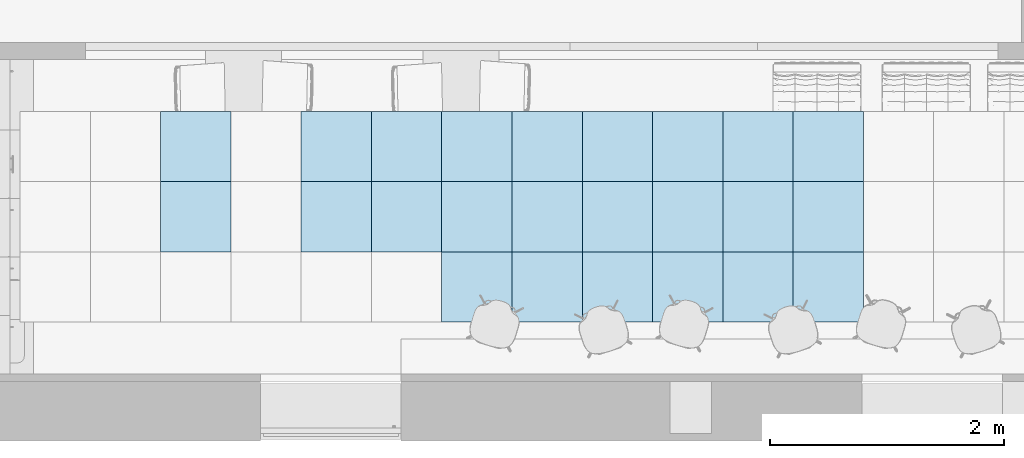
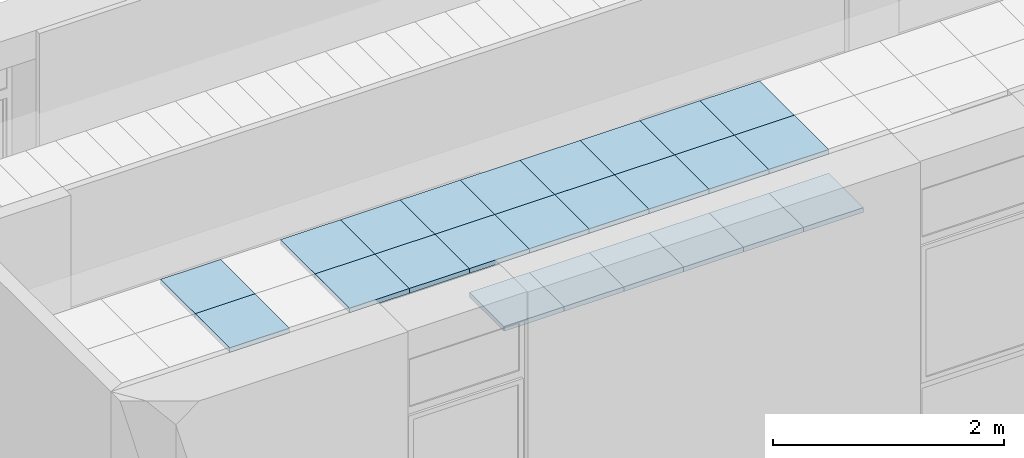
# One storey, part 18 of 68: 24 slabs.
"""IFC2X3 building model written with IfcOpenShell, lengths in millimetres."""

from ifc_helpers import new_model, entity, si_unit, converted_unit, derived_unit, money_unit, direction, frame, origin_with_axes, place, context, subcontext, project, spatial, polyline, outline, extrude, material, layer, layer_set, layer_usage, type_object, element, save


model = new_model("IFC2X3")

# Units and contexts
model_context = context("Model", 3, precision=0.01, world=origin_with_axes(), true_north=direction((0.0, 1.0)))
body_context = subcontext(model_context, "Body", "Model", "MODEL_VIEW")
ifc_project = project(units=[si_unit("LENGTHUNIT", "METRE", prefix="MILLI"), si_unit("AREAUNIT", "SQUARE_METRE"), si_unit("VOLUMEUNIT", "CUBIC_METRE"), converted_unit("PLANEANGLEUNIT", "DEGREE", entity("IfcPlaneAngleMeasure", 0.0174532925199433), si_unit("PLANEANGLEUNIT", "RADIAN"), dimensions=[0, 0, 0, 0, 0, 0, 0]), money_unit("USD"), converted_unit("TIMEUNIT", "Year", entity("IfcTimeMeasure", 31557600.0), si_unit("TIMEUNIT", "SECOND"), dimensions=[0, 0, 1, 0, 0, 0, 0]), si_unit("MASSUNIT", "GRAM", prefix="KILO"), si_unit("THERMODYNAMICTEMPERATUREUNIT", "DEGREE_CELSIUS"), si_unit("LUMINOUSINTENSITYUNIT", "LUMEN"), si_unit("ENERGYUNIT", "JOULE", prefix="MEGA"), derived_unit("THERMALCONDUCTANCEUNIT", [(si_unit("POWERUNIT", "WATT"), 1), (si_unit("LENGTHUNIT", "METRE"), -1), (si_unit("THERMODYNAMICTEMPERATUREUNIT", "KELVIN"), -1)]), derived_unit("SPECIFICHEATCAPACITYUNIT", [(si_unit("ENERGYUNIT", "JOULE"), 1), (si_unit("MASSUNIT", "GRAM", prefix="KILO"), -1), (si_unit("THERMODYNAMICTEMPERATUREUNIT", "KELVIN"), -1)]), derived_unit("MASSDENSITYUNIT", [(si_unit("MASSUNIT", "GRAM", prefix="KILO"), 1), (si_unit("VOLUMEUNIT", "CUBIC_METRE"), -1)])], contexts=[model_context])

# Site, building, storey
site_placement = place(None, origin_with_axes())
site = spatial("IfcSite", under=ifc_project, at=site_placement, Name="Sitio", CompositionType="ELEMENT")
building_placement = place(site_placement, origin_with_axes())
building = spatial("IfcBuilding", under=site, at=building_placement, Name="Construcción", CompositionType="ELEMENT")
storey_placement = place(building_placement, origin_with_axes())
storey = spatial("IfcBuildingStorey", under=building, at=storey_placement, Name="PLANTA 1ª", CompositionType="ELEMENT", Elevation=0.0)

# Slabs
ifc_material = material(Name="ARQ_CE217_Armstrong 60x60")
ifc_layer = layer(ifc_material, 50.0, ventilated="UNKNOWN")
ifc_layer_set = layer_set([ifc_layer], Name="ARQ_CE217_Armstrong 60x60 50")
ifc_layer_usage_1 = layer_usage(ifc_layer_set, "AXIS3", "NEGATIVE", 50.0)
slab_type = type_object("IfcSlabType", Name="ARQ_CE217_Armstrong 60x60 50", PredefinedType="NOTDEFINED")
slab_1_placement = place(storey_placement, frame((-21420.63976804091, -87.06138389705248, 2500.0), z_axis=(0.0, 0.0, 1.0), x_axis=(1.0, 0.0, 0.0)))
element("IfcSlab", 1, at=slab_1_placement, inside=storey, type_object=slab_type, material=ifc_layer_usage_1, Name="SLA - 026", PredefinedType="NOTDEFINED", context=body_context, shape_type="SweptSolid", body=[
    extrude(outline(polyline([(0.0, 0.0), (600.0000000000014, 0.0), (600.0000000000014, 600.0000000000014), (0.0, 600.0000000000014), (0.0, 0.0)])), frame((0.0, 0.0, -50.0), z_axis=(0.0, 0.0, 1.0), x_axis=(1.0, 0.0, 0.0)), (0.0, 0.0, 1.0), 50.0),
])
ifc_layer_usage_2 = layer_usage(ifc_layer_set, "AXIS3", "NEGATIVE", 50.0)
slab_2_placement = place(storey_placement, frame((-22620.6397680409, -687.0613838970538, 2250.0), z_axis=(0.0, 0.0, 1.0), x_axis=(1.0, 0.0, 0.0)))
element("IfcSlab", 2, at=slab_2_placement, inside=storey, type_object=slab_type, material=ifc_layer_usage_2, Name="SLA - 026", PredefinedType="NOTDEFINED", context=body_context, shape_type="SweptSolid", body=[
    extrude(outline(polyline([(0.0, 0.0), (599.9999999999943, 0.0), (599.9999999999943, 600.0000000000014), (0.0, 600.0000000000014), (0.0, 0.0)])), frame((0.0, 0.0, -50.0), z_axis=(0.0, 0.0, 1.0), x_axis=(1.0, 0.0, 0.0)), (0.0, 0.0, 1.0), 50.0),
])
ifc_layer_usage_3 = layer_usage(ifc_layer_set, "AXIS3", "NEGATIVE", 50.0)
slab_3_placement = place(storey_placement, frame((-23820.63976804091, -687.0613838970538, 2250.0), z_axis=(0.0, 0.0, 1.0), x_axis=(1.0, 0.0, 0.0)))
element("IfcSlab", 3, at=slab_3_placement, inside=storey, type_object=slab_type, material=ifc_layer_usage_3, Name="SLA - 026", PredefinedType="NOTDEFINED", context=body_context, shape_type="SweptSolid", body=[
    extrude(outline(polyline([(0.0, 0.0), (600.0000000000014, 0.0), (600.0000000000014, 600.0000000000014), (0.0, 600.0000000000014), (0.0, 0.0)])), frame((0.0, 0.0, -50.0), z_axis=(0.0, 0.0, 1.0), x_axis=(1.0, 0.0, 0.0)), (0.0, 0.0, 1.0), 50.0),
])
ifc_layer_usage_4 = layer_usage(ifc_layer_set, "AXIS3", "NEGATIVE", 50.0)
slab_4_placement = place(storey_placement, frame((-23220.6397680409, -687.0613838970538, 2250.0), z_axis=(0.0, 0.0, 1.0), x_axis=(1.0, 0.0, 0.0)))
element("IfcSlab", 4, at=slab_4_placement, inside=storey, type_object=slab_type, material=ifc_layer_usage_4, Name="SLA - 026", PredefinedType="NOTDEFINED", context=body_context, shape_type="SweptSolid", body=[
    extrude(outline(polyline([(0.0, 0.0), (600.0000000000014, 0.0), (600.0000000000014, 600.0000000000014), (0.0, 600.0000000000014), (0.0, 0.0)])), frame((0.0, 0.0, -50.0), z_axis=(0.0, 0.0, 1.0), x_axis=(1.0, 0.0, 0.0)), (0.0, 0.0, 1.0), 50.0),
])
ifc_layer_usage_5 = layer_usage(ifc_layer_set, "AXIS3", "NEGATIVE", 50.0)
slab_5_placement = place(storey_placement, frame((-23820.63976804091, -87.06138389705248, 2500.0), z_axis=(0.0, 0.0, 1.0), x_axis=(1.0, 0.0, 0.0)))
element("IfcSlab", 5, at=slab_5_placement, inside=storey, type_object=slab_type, material=ifc_layer_usage_5, Name="SLA - 026", PredefinedType="NOTDEFINED", context=body_context, shape_type="SweptSolid", body=[
    extrude(outline(polyline([(0.0, 0.0), (600.0000000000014, 0.0), (600.0000000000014, 600.0000000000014), (0.0, 600.0000000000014), (0.0, 0.0)])), frame((0.0, 0.0, -50.0), z_axis=(0.0, 0.0, 1.0), x_axis=(1.0, 0.0, 0.0)), (0.0, 0.0, 1.0), 50.0),
])
ifc_layer_usage_6 = layer_usage(ifc_layer_set, "AXIS3", "NEGATIVE", 50.0)
slab_6_placement = place(storey_placement, frame((-23220.6397680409, -87.06138389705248, 2500.0), z_axis=(0.0, 0.0, 1.0), x_axis=(1.0, 0.0, 0.0)))
element("IfcSlab", 6, at=slab_6_placement, inside=storey, type_object=slab_type, material=ifc_layer_usage_6, Name="SLA - 026", PredefinedType="NOTDEFINED", context=body_context, shape_type="SweptSolid", body=[
    extrude(outline(polyline([(0.0, 0.0), (600.0000000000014, 0.0), (600.0000000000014, 600.0000000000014), (0.0, 600.0000000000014), (0.0, 0.0)])), frame((0.0, 0.0, -50.0), z_axis=(0.0, 0.0, 1.0), x_axis=(1.0, 0.0, 0.0)), (0.0, 0.0, 1.0), 50.0),
])
ifc_layer_usage_7 = layer_usage(ifc_layer_set, "AXIS3", "NEGATIVE", 50.0)
slab_7_placement = place(storey_placement, frame((-22620.6397680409, -87.06138389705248, 2500.0), z_axis=(0.0, 0.0, 1.0), x_axis=(1.0, 0.0, 0.0)))
element("IfcSlab", 7, at=slab_7_placement, inside=storey, type_object=slab_type, material=ifc_layer_usage_7, Name="SLA - 026", PredefinedType="NOTDEFINED", context=body_context, shape_type="SweptSolid", body=[
    extrude(outline(polyline([(0.0, 0.0), (599.9999999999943, 0.0), (599.9999999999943, 600.0000000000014), (0.0, 600.0000000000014), (0.0, 0.0)])), frame((0.0, 0.0, -50.0), z_axis=(0.0, 0.0, 1.0), x_axis=(1.0, 0.0, 0.0)), (0.0, 0.0, 1.0), 50.0),
])
ifc_layer_usage_8 = layer_usage(ifc_layer_set, "AXIS3", "NEGATIVE", 50.0)
slab_8_placement = place(storey_placement, frame((-22020.63976804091, -687.0613838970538, 2250.0), z_axis=(0.0, 0.0, 1.0), x_axis=(1.0, 0.0, 0.0)))
element("IfcSlab", 8, at=slab_8_placement, inside=storey, type_object=slab_type, material=ifc_layer_usage_8, Name="SLA - 026", PredefinedType="NOTDEFINED", context=body_context, shape_type="SweptSolid", body=[
    extrude(outline(polyline([(0.0, 0.0), (600.0000000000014, 0.0), (600.0000000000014, 600.0000000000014), (0.0, 600.0000000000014), (0.0, 0.0)])), frame((0.0, 0.0, -50.0), z_axis=(0.0, 0.0, 1.0), x_axis=(1.0, 0.0, 0.0)), (0.0, 0.0, 1.0), 50.0),
])
ifc_layer_usage_9 = layer_usage(ifc_layer_set, "AXIS3", "NEGATIVE", 50.0)
slab_9_placement = place(storey_placement, frame((-24420.6397680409, 512.938616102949, 2500.0), z_axis=(0.0, 0.0, 1.0), x_axis=(1.0, 0.0, 0.0)))
element("IfcSlab", 9, at=slab_9_placement, inside=storey, type_object=slab_type, material=ifc_layer_usage_9, Name="SLA - 026", PredefinedType="NOTDEFINED", context=body_context, shape_type="SweptSolid", body=[
    extrude(outline(polyline([(0.0, 0.0), (599.9999999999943, 0.0), (599.9999999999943, 600.0000000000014), (0.0, 600.0000000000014), (0.0, 0.0)])), frame((0.0, 0.0, -50.0), z_axis=(0.0, 0.0, 1.0), x_axis=(1.0, 0.0, 0.0)), (0.0, 0.0, 1.0), 50.0),
])
ifc_layer_usage_10 = layer_usage(ifc_layer_set, "AXIS3", "NEGATIVE", 50.0)
slab_10_placement = place(storey_placement, frame((-20820.63976804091, -87.06138389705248, 2500.0), z_axis=(0.0, 0.0, 1.0), x_axis=(1.0, 0.0, 0.0)))
element("IfcSlab", 10, at=slab_10_placement, inside=storey, type_object=slab_type, material=ifc_layer_usage_10, Name="SLA - 026", PredefinedType="NOTDEFINED", context=body_context, shape_type="SweptSolid", body=[
    extrude(outline(polyline([(0.0, 0.0), (599.9999999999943, 0.0), (599.9999999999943, 600.0000000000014), (0.0, 600.0000000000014), (0.0, 0.0)])), frame((0.0, 0.0, -50.0), z_axis=(0.0, 0.0, 1.0), x_axis=(1.0, 0.0, 0.0)), (0.0, 0.0, 1.0), 50.0),
])
ifc_layer_usage_11 = layer_usage(ifc_layer_set, "AXIS3", "NEGATIVE", 50.0)
slab_11_placement = place(storey_placement, frame((-22020.63976804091, 512.938616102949, 2500.0), z_axis=(0.0, 0.0, 1.0), x_axis=(1.0, 0.0, 0.0)))
element("IfcSlab", 11, at=slab_11_placement, inside=storey, type_object=slab_type, material=ifc_layer_usage_11, Name="SLA - 026", PredefinedType="NOTDEFINED", context=body_context, shape_type="SweptSolid", body=[
    extrude(outline(polyline([(0.0, 0.0), (600.0000000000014, 0.0), (600.0000000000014, 600.0000000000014), (0.0, 600.0000000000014), (0.0, 0.0)])), frame((0.0, 0.0, -50.0), z_axis=(0.0, 0.0, 1.0), x_axis=(1.0, 0.0, 0.0)), (0.0, 0.0, 1.0), 50.0),
])
ifc_layer_usage_12 = layer_usage(ifc_layer_set, "AXIS3", "NEGATIVE", 50.0)
slab_12_placement = place(storey_placement, frame((-23820.63976804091, 512.938616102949, 2500.0), z_axis=(0.0, 0.0, 1.0), x_axis=(1.0, 0.0, 0.0)))
element("IfcSlab", 12, at=slab_12_placement, inside=storey, type_object=slab_type, material=ifc_layer_usage_12, Name="SLA - 026", PredefinedType="NOTDEFINED", context=body_context, shape_type="SweptSolid", body=[
    extrude(outline(polyline([(0.0, 0.0), (600.0000000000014, 0.0), (600.0000000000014, 600.0000000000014), (0.0, 600.0000000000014), (0.0, 0.0)])), frame((0.0, 0.0, -50.0), z_axis=(0.0, 0.0, 1.0), x_axis=(1.0, 0.0, 0.0)), (0.0, 0.0, 1.0), 50.0),
])
ifc_layer_usage_13 = layer_usage(ifc_layer_set, "AXIS3", "NEGATIVE", 50.0)
slab_13_placement = place(storey_placement, frame((-23220.6397680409, 512.938616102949, 2500.0), z_axis=(0.0, 0.0, 1.0), x_axis=(1.0, 0.0, 0.0)))
element("IfcSlab", 13, at=slab_13_placement, inside=storey, type_object=slab_type, material=ifc_layer_usage_13, Name="SLA - 026", PredefinedType="NOTDEFINED", context=body_context, shape_type="SweptSolid", body=[
    extrude(outline(polyline([(0.0, 0.0), (600.0000000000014, 0.0), (600.0000000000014, 600.0000000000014), (0.0, 600.0000000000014), (0.0, 0.0)])), frame((0.0, 0.0, -50.0), z_axis=(0.0, 0.0, 1.0), x_axis=(1.0, 0.0, 0.0)), (0.0, 0.0, 1.0), 50.0),
])
ifc_layer_usage_14 = layer_usage(ifc_layer_set, "AXIS3", "NEGATIVE", 50.0)
slab_14_placement = place(storey_placement, frame((-22620.6397680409, 512.938616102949, 2500.0), z_axis=(0.0, 0.0, 1.0), x_axis=(1.0, 0.0, 0.0)))
element("IfcSlab", 14, at=slab_14_placement, inside=storey, type_object=slab_type, material=ifc_layer_usage_14, Name="SLA - 026", PredefinedType="NOTDEFINED", context=body_context, shape_type="SweptSolid", body=[
    extrude(outline(polyline([(0.0, 0.0), (599.9999999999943, 0.0), (599.9999999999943, 600.0000000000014), (0.0, 600.0000000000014), (0.0, 0.0)])), frame((0.0, 0.0, -50.0), z_axis=(0.0, 0.0, 1.0), x_axis=(1.0, 0.0, 0.0)), (0.0, 0.0, 1.0), 50.0),
])
ifc_layer_usage_15 = layer_usage(ifc_layer_set, "AXIS3", "NEGATIVE", 50.0)
slab_15_placement = place(storey_placement, frame((-20820.63976804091, -687.0613838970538, 2250.0), z_axis=(0.0, 0.0, 1.0), x_axis=(1.0, 0.0, 0.0)))
element("IfcSlab", 15, at=slab_15_placement, inside=storey, type_object=slab_type, material=ifc_layer_usage_15, Name="SLA - 026", PredefinedType="NOTDEFINED", context=body_context, shape_type="SweptSolid", body=[
    extrude(outline(polyline([(0.0, 0.0), (599.9999999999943, 0.0), (599.9999999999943, 600.0000000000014), (0.0, 600.0000000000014), (0.0, 0.0)])), frame((0.0, 0.0, -50.0), z_axis=(0.0, 0.0, 1.0), x_axis=(1.0, 0.0, 0.0)), (0.0, 0.0, 1.0), 50.0),
])
ifc_layer_usage_16 = layer_usage(ifc_layer_set, "AXIS3", "NEGATIVE", 50.0)
slab_16_placement = place(storey_placement, frame((-24420.6397680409, -87.06138389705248, 2500.0), z_axis=(0.0, 0.0, 1.0), x_axis=(1.0, 0.0, 0.0)))
element("IfcSlab", 16, at=slab_16_placement, inside=storey, type_object=slab_type, material=ifc_layer_usage_16, Name="SLA - 026", PredefinedType="NOTDEFINED", context=body_context, shape_type="SweptSolid", body=[
    extrude(outline(polyline([(0.0, 0.0), (599.9999999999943, 0.0), (599.9999999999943, 600.0000000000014), (0.0, 600.0000000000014), (0.0, 0.0)])), frame((0.0, 0.0, -50.0), z_axis=(0.0, 0.0, 1.0), x_axis=(1.0, 0.0, 0.0)), (0.0, 0.0, 1.0), 50.0),
])
ifc_layer_usage_17 = layer_usage(ifc_layer_set, "AXIS3", "NEGATIVE", 50.0)
slab_17_placement = place(storey_placement, frame((-25020.63976804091, 512.938616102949, 2500.0), z_axis=(0.0, 0.0, 1.0), x_axis=(1.0, 0.0, 0.0)))
element("IfcSlab", 17, at=slab_17_placement, inside=storey, type_object=slab_type, material=ifc_layer_usage_17, Name="SLA - 026", PredefinedType="NOTDEFINED", context=body_context, shape_type="SweptSolid", body=[
    extrude(outline(polyline([(0.0, 0.0), (600.000000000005, 0.0), (600.000000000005, 600.0000000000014), (0.0, 600.0000000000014), (0.0, 0.0)])), frame((0.0, 0.0, -50.0), z_axis=(0.0, 0.0, 1.0), x_axis=(1.0, 0.0, 0.0)), (0.0, 0.0, 1.0), 50.0),
])
ifc_layer_usage_18 = layer_usage(ifc_layer_set, "AXIS3", "NEGATIVE", 50.0)
slab_18_placement = place(storey_placement, frame((-22020.63976804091, -87.06138389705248, 2500.0), z_axis=(0.0, 0.0, 1.0), x_axis=(1.0, 0.0, 0.0)))
element("IfcSlab", 18, at=slab_18_placement, inside=storey, type_object=slab_type, material=ifc_layer_usage_18, Name="SLA - 026", PredefinedType="NOTDEFINED", context=body_context, shape_type="SweptSolid", body=[
    extrude(outline(polyline([(0.0, 0.0), (600.0000000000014, 0.0), (600.0000000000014, 600.0000000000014), (0.0, 600.0000000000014), (0.0, 0.0)])), frame((0.0, 0.0, -50.0), z_axis=(0.0, 0.0, 1.0), x_axis=(1.0, 0.0, 0.0)), (0.0, 0.0, 1.0), 50.0),
])
ifc_layer_usage_19 = layer_usage(ifc_layer_set, "AXIS3", "NEGATIVE", 50.0)
slab_19_placement = place(storey_placement, frame((-21420.63976804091, -687.0613838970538, 2250.0), z_axis=(0.0, 0.0, 1.0), x_axis=(1.0, 0.0, 0.0)))
element("IfcSlab", 19, at=slab_19_placement, inside=storey, type_object=slab_type, material=ifc_layer_usage_19, Name="SLA - 026", PredefinedType="NOTDEFINED", context=body_context, shape_type="SweptSolid", body=[
    extrude(outline(polyline([(0.0, 0.0), (600.0000000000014, 0.0), (600.0000000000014, 600.0000000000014), (0.0, 600.0000000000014), (0.0, 0.0)])), frame((0.0, 0.0, -50.0), z_axis=(0.0, 0.0, 1.0), x_axis=(1.0, 0.0, 0.0)), (0.0, 0.0, 1.0), 50.0),
])
ifc_layer_usage_20 = layer_usage(ifc_layer_set, "AXIS3", "NEGATIVE", 50.0)
slab_20_placement = place(storey_placement, frame((-25020.63976804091, -87.06138389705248, 2500.0), z_axis=(0.0, 0.0, 1.0), x_axis=(1.0, 0.0, 0.0)))
element("IfcSlab", 20, at=slab_20_placement, inside=storey, type_object=slab_type, material=ifc_layer_usage_20, Name="SLA - 026", PredefinedType="NOTDEFINED", context=body_context, shape_type="SweptSolid", body=[
    extrude(outline(polyline([(0.0, 0.0), (600.000000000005, 0.0), (600.000000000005, 600.0000000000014), (0.0, 600.0000000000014), (0.0, 0.0)])), frame((0.0, 0.0, -50.0), z_axis=(0.0, 0.0, 1.0), x_axis=(1.0, 0.0, 0.0)), (0.0, 0.0, 1.0), 50.0),
])
ifc_layer_usage_21 = layer_usage(ifc_layer_set, "AXIS3", "NEGATIVE", 50.0)
slab_21_placement = place(storey_placement, frame((-26220.6397680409, -87.06138389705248, 2500.0), z_axis=(0.0, 0.0, 1.0), x_axis=(1.0, 0.0, 0.0)))
element("IfcSlab", 21, at=slab_21_placement, inside=storey, type_object=slab_type, material=ifc_layer_usage_21, Name="SLA - 026", PredefinedType="NOTDEFINED", context=body_context, shape_type="SweptSolid", body=[
    extrude(outline(polyline([(0.0, 0.0), (599.9999999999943, 0.0), (599.9999999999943, 600.0000000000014), (0.0, 600.0000000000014), (0.0, 0.0)])), frame((0.0, 0.0, -50.0), z_axis=(0.0, 0.0, 1.0), x_axis=(1.0, 0.0, 0.0)), (0.0, 0.0, 1.0), 50.0),
])
ifc_layer_usage_22 = layer_usage(ifc_layer_set, "AXIS3", "NEGATIVE", 50.0)
slab_22_placement = place(storey_placement, frame((-26220.6397680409, 512.938616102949, 2500.0), z_axis=(0.0, 0.0, 1.0), x_axis=(1.0, 0.0, 0.0)))
element("IfcSlab", 22, at=slab_22_placement, inside=storey, type_object=slab_type, material=ifc_layer_usage_22, Name="SLA - 026", PredefinedType="NOTDEFINED", context=body_context, shape_type="SweptSolid", body=[
    extrude(outline(polyline([(0.0, 0.0), (599.9999999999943, 0.0), (599.9999999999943, 600.0000000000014), (0.0, 600.0000000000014), (0.0, 0.0)])), frame((0.0, 0.0, -50.0), z_axis=(0.0, 0.0, 1.0), x_axis=(1.0, 0.0, 0.0)), (0.0, 0.0, 1.0), 50.0),
])
ifc_layer_usage_23 = layer_usage(ifc_layer_set, "AXIS3", "NEGATIVE", 50.0)
slab_23_placement = place(storey_placement, frame((-21420.63976804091, 512.938616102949, 2500.0), z_axis=(0.0, 0.0, 1.0), x_axis=(1.0, 0.0, 0.0)))
element("IfcSlab", 23, at=slab_23_placement, inside=storey, type_object=slab_type, material=ifc_layer_usage_23, Name="SLA - 026", PredefinedType="NOTDEFINED", context=body_context, shape_type="SweptSolid", body=[
    extrude(outline(polyline([(0.0, 0.0), (600.0000000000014, 0.0), (600.0000000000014, 600.0000000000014), (0.0, 600.0000000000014), (0.0, 0.0)])), frame((0.0, 0.0, -50.0), z_axis=(0.0, 0.0, 1.0), x_axis=(1.0, 0.0, 0.0)), (0.0, 0.0, 1.0), 50.0),
])
ifc_layer_usage_24 = layer_usage(ifc_layer_set, "AXIS3", "NEGATIVE", 50.0)
slab_24_placement = place(storey_placement, frame((-20820.63976804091, 512.938616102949, 2500.0), z_axis=(0.0, 0.0, 1.0), x_axis=(1.0, 0.0, 0.0)))
element("IfcSlab", 24, at=slab_24_placement, inside=storey, type_object=slab_type, material=ifc_layer_usage_24, Name="SLA - 026", PredefinedType="NOTDEFINED", context=body_context, shape_type="SweptSolid", body=[
    extrude(outline(polyline([(0.0, 0.0), (599.9999999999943, 0.0), (599.9999999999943, 600.0000000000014), (0.0, 600.0000000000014), (0.0, 0.0)])), frame((0.0, 0.0, -50.0), z_axis=(0.0, 0.0, 1.0), x_axis=(1.0, 0.0, 0.0)), (0.0, 0.0, 1.0), 50.0),
])

save(model, "model.ifc")
